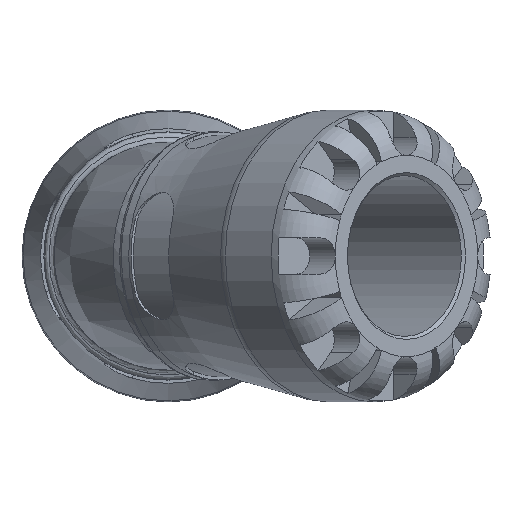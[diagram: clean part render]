
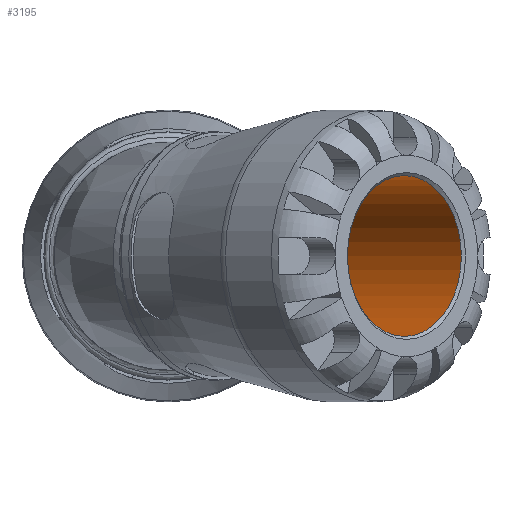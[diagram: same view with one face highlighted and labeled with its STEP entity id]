
A CAD part, left-side view. The second image highlights one B-rep face of the part: STEP entity #3195.
In plain terms, the highlighted cylindrical face has radius 16 mm (diameter 32 mm), a full revolution.
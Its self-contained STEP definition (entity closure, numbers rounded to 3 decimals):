
#468=CYLINDRICAL_SURFACE('',#3422,16.);
#656=FACE_BOUND('',#914,.T.);
#711=FACE_OUTER_BOUND('',#913,.T.);
#913=EDGE_LOOP('',(#2137));
#914=EDGE_LOOP('',(#2138));
#1135=CIRCLE('',#3421,16.);
#1136=CIRCLE('',#3423,16.);
#1321=VERTEX_POINT('',#5123);
#1322=VERTEX_POINT('',#5126);
#1638=EDGE_CURVE('',#1321,#1321,#1135,.T.);
#1639=EDGE_CURVE('',#1322,#1322,#1136,.T.);
#2137=ORIENTED_EDGE('',*,*,#1638,.F.);
#2138=ORIENTED_EDGE('',*,*,#1639,.F.);
#3195=ADVANCED_FACE('',(#711,#656),#468,.F.);
#3421=AXIS2_PLACEMENT_3D('',#5124,#3862,#3863);
#3422=AXIS2_PLACEMENT_3D('',#5125,#3864,#3865);
#3423=AXIS2_PLACEMENT_3D('',#5127,#3866,#3867);
#3862=DIRECTION('center_axis',(0.707,0.707,0.));
#3863=DIRECTION('ref_axis',(-0.707,0.707,0.));
#3864=DIRECTION('center_axis',(-0.707,-0.707,0.));
#3865=DIRECTION('ref_axis',(0.707,-0.707,0.));
#3866=DIRECTION('center_axis',(-0.707,-0.707,0.));
#3867=DIRECTION('ref_axis',(0.,0.,-1.));
#5123=CARTESIAN_POINT('',(-35.652,-58.28,0.));
#5124=CARTESIAN_POINT('Origin',(-46.966,-46.966,0.));
#5125=CARTESIAN_POINT('Origin',(-28.284,-28.284,0.));
#5126=CARTESIAN_POINT('',(2.121,-20.506,0.));
#5127=CARTESIAN_POINT('Origin',(-9.192,-9.192,0.));
